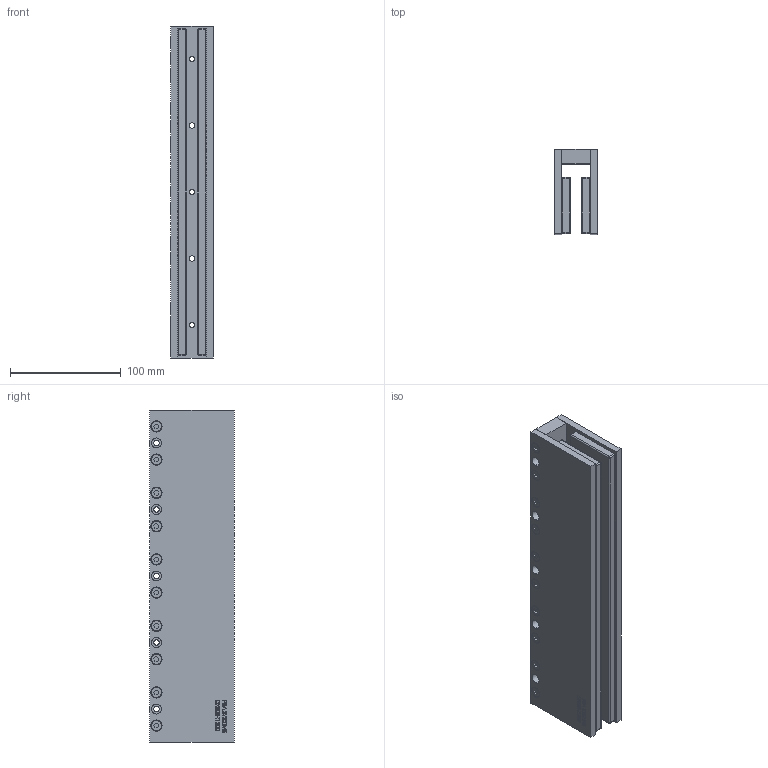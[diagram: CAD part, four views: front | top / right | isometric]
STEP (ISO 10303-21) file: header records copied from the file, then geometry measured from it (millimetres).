
FILE_DESCRIPTION (( 'STEP AP214' ), '1' );
FILE_NAME ('DX50B-TL300.STEP', '2016-05-11T09:34:45', ( '' ), ( '' ), 'SwSTEP 2.0', 'SolidWorks 2015', '' );
FILE_SCHEMA (( 'AUTOMOTIVE_DESIGN' ));
Length unit declared in the file: millimetre
Products named in the file (5): DX50B-0000-001_CUSTOMER_TL300; M6X12 DIN7984 STAINLESS STEEL; DX50B-TL300-002_TL300; DX50B-TL300-001_TL300; DX50B-TL300
Assembly tree (25 placements, depth 2):
  DX50B-TL300
    DX50B-TL300-001_TL300
    DX50B-TL300-002_TL300  x2
    M6X12 DIN7984 STAINLESS STEEL  x20
    DX50B-0000-001_CUSTOMER_TL300  x2
Bounding box: 38.7 x 76.2 x 299.5 mm (x, y, z)
Volume: 617626.4 mm3; surface area: 212896.3 mm2
Topology: 25 solids, 25 shells, 1182 faces, 2898 edges, 1862 vertices
Faces by surface type: plane 572, cylinder 264, bspline 250, cone 40, torus 40, sphere 16
Entity records: 21985 total; most frequent: CARTESIAN_POINT 10328, ORIENTED_EDGE 2370, DIRECTION 1863, EDGE_CURVE 1185, VERTEX_POINT 764, VECTOR 697, LINE 697, AXIS2_PLACEMENT_3D 583
